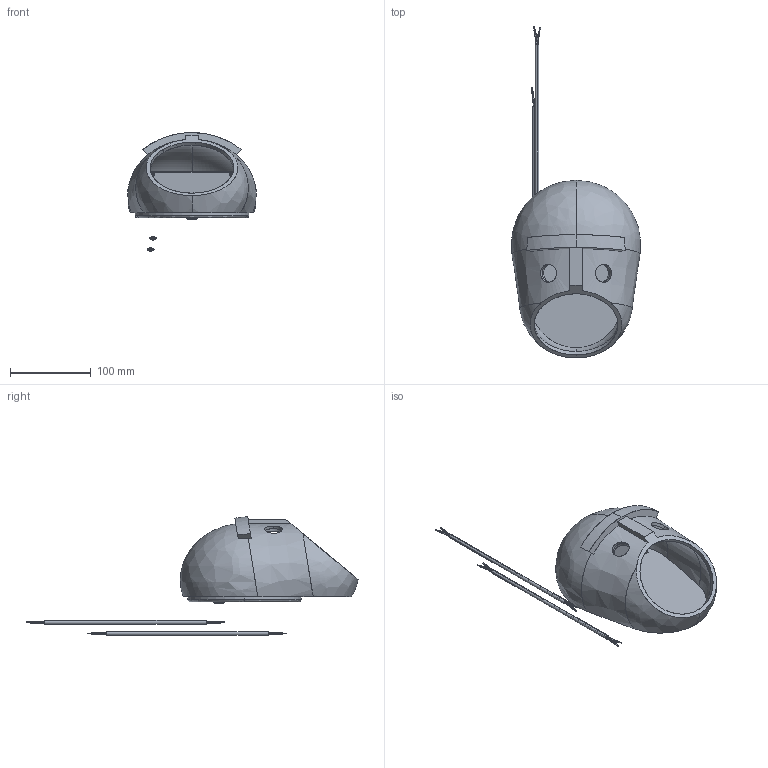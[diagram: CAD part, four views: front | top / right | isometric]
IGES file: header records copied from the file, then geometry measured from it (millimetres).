
Start section: SolidWorks IGES file using analytic representation for surfaces
Global section: file name: C:\Moooi\01_PRODUCTS\LI_Lighting Decorative\LI150 Orthenaartjes\11_Export\A000925_Creations_BERT_19-10-2018.igs; native system: SolidWorks 2017; preprocessor: SolidWorks 2017; author: Nataliajaskowska; date: 181019.092237; units: millimetre
Bounding box: 158.9 x 409.92 x 146.64 mm (x, y, z)
Surface area: 279529.1 mm2 (no closed solid volume)
Topology: 0 solids, 0 shells, 1730 faces, 20218 edges, 20195 vertices
Faces by surface type: bspline 1110, revolution 620
